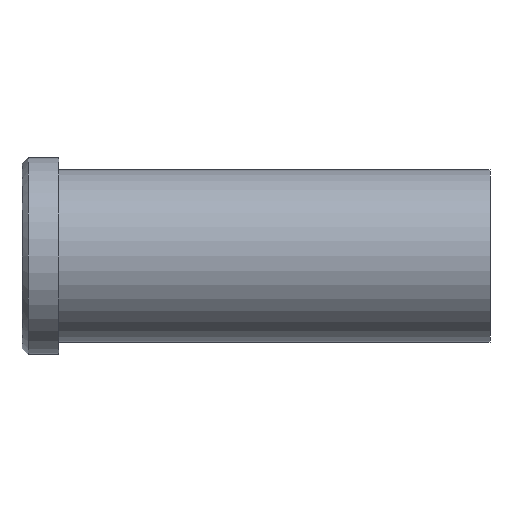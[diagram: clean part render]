
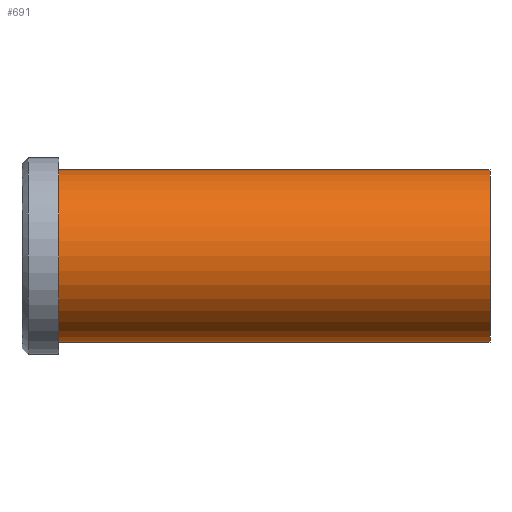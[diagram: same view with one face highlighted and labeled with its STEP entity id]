
A CAD part, front view. The second image highlights one B-rep face of the part: STEP entity #691.
In plain terms, the highlighted cylindrical face has radius 14 mm (diameter 28 mm), a partial arc.
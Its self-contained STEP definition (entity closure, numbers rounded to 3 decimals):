
#501=CARTESIAN_POINT('Vertex',(0.,0.,-14.)) ;
#506=CARTESIAN_POINT('Axis2P3D Location',(0.,0.,0.)) ;
#510=CARTESIAN_POINT('Vertex',(0.,-14.,0.)) ;
#513=CARTESIAN_POINT('Axis2P3D Location',(0.,0.,0.)) ;
#517=CARTESIAN_POINT('Vertex',(0.,0.,14.)) ;
#631=CARTESIAN_POINT('Line Origine',(70.,0.,14.)) ;
#635=CARTESIAN_POINT('Vertex',(70.,0.,14.)) ;
#649=CARTESIAN_POINT('Vertex',(70.,0.,-14.)) ;
#652=CARTESIAN_POINT('Line Origine',(70.,0.,-14.)) ;
#666=CARTESIAN_POINT('Axis2P3D Location',(70.,0.,0.)) ;
#671=CARTESIAN_POINT('Axis2P3D Location',(70.,0.,0.)) ;
#675=CARTESIAN_POINT('Vertex',(70.,-14.,0.)) ;
#678=CARTESIAN_POINT('Axis2P3D Location',(70.,0.,0.)) ;
#507=DIRECTION('Axis2P3D Direction',(1.,0.,-0.)) ;
#514=DIRECTION('Axis2P3D Direction',(1.,0.,-0.)) ;
#632=DIRECTION('Vector Direction',(-1.,0.,0.)) ;
#653=DIRECTION('Vector Direction',(-1.,0.,0.)) ;
#667=DIRECTION('Axis2P3D Direction',(-1.,-0.,-0.)) ;
#668=DIRECTION('Axis2P3D XDirection',(0.,0.,-1.)) ;
#672=DIRECTION('Axis2P3D Direction',(-1.,-0.,-0.)) ;
#679=DIRECTION('Axis2P3D Direction',(-1.,-0.,-0.)) ;
#508=AXIS2_PLACEMENT_3D('Circle Axis2P3D',#506,#507,$) ;
#515=AXIS2_PLACEMENT_3D('Circle Axis2P3D',#513,#514,$) ;
#669=AXIS2_PLACEMENT_3D('Cylinder Axis2P3D',#666,#667,#668) ;
#673=AXIS2_PLACEMENT_3D('Circle Axis2P3D',#671,#672,$) ;
#680=AXIS2_PLACEMENT_3D('Circle Axis2P3D',#678,#679,$) ;
#684=ORIENTED_EDGE('',*,*,#656,.T.) ;
#685=ORIENTED_EDGE('',*,*,#677,.F.) ;
#686=ORIENTED_EDGE('',*,*,#682,.F.) ;
#687=ORIENTED_EDGE('',*,*,#637,.T.) ;
#688=ORIENTED_EDGE('',*,*,#519,.T.) ;
#689=ORIENTED_EDGE('',*,*,#512,.T.) ;
#633=VECTOR('Line Direction',#632,1.) ;
#654=VECTOR('Line Direction',#653,1.) ;
#691=ADVANCED_FACE('353-20X76',(#690),#670,.T.) ;
#509=CIRCLE('generated circle',#508,14.) ;
#516=CIRCLE('generated circle',#515,14.) ;
#674=CIRCLE('generated circle',#673,14.) ;
#681=CIRCLE('generated circle',#680,14.) ;
#670=CYLINDRICAL_SURFACE('generated cylinder',#669,14.) ;
#512=EDGE_CURVE('',#511,#502,#509,.T.) ;
#519=EDGE_CURVE('',#518,#511,#516,.T.) ;
#637=EDGE_CURVE('',#636,#518,#634,.T.) ;
#656=EDGE_CURVE('',#502,#650,#655,.F.) ;
#677=EDGE_CURVE('',#676,#650,#674,.F.) ;
#682=EDGE_CURVE('',#636,#676,#681,.F.) ;
#683=EDGE_LOOP('',(#684,#685,#686,#687,#688,#689)) ;
#690=FACE_OUTER_BOUND('',#683,.T.) ;
#634=LINE('Line',#631,#633) ;
#655=LINE('Line',#652,#654) ;
#502=VERTEX_POINT('',#501) ;
#511=VERTEX_POINT('',#510) ;
#518=VERTEX_POINT('',#517) ;
#636=VERTEX_POINT('',#635) ;
#650=VERTEX_POINT('',#649) ;
#676=VERTEX_POINT('',#675) ;
